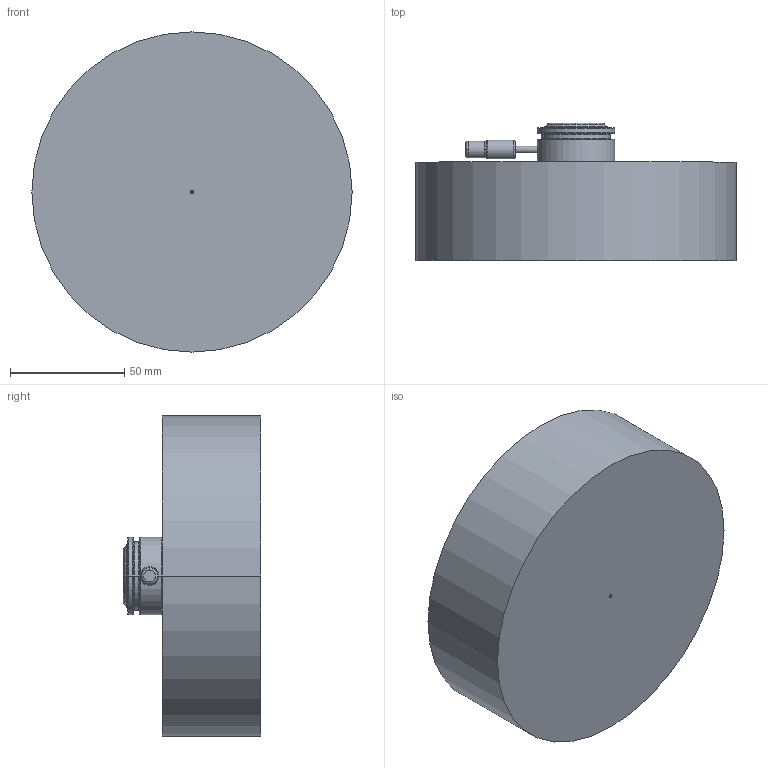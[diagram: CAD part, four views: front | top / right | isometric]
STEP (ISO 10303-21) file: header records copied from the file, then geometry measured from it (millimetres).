
FILE_DESCRIPTION((''),'2;1');
FILE_NAME('M34G101.stp','2020-09-17T12:50:11',(''),(''),'AutoCAD STEP 2000i','AutoCAD 2000i',', , ');
FILE_SCHEMA(('CONFIG_CONTROL_DESIGN'));
Length unit declared in the file: millimetre
Products named in the file (3): DRAWING1; NOZZLE M101G34; MOLD BODY 101 G M 34
Assembly tree (2 placements, depth 2):
  DRAWING1
    NOZZLE M101G34
    MOLD BODY 101 G M 34
Bounding box: 140 x 60 x 140 mm (x, y, z)
Volume: 673206.3 mm3; surface area: 59740.4 mm2
Topology: 2 solids, 2 shells, 116 faces, 277 edges, 174 vertices
Faces by surface type: cone 38, cylinder 34, bspline 17, plane 17, torus 10
Entity records: 4170 total; most frequent: CARTESIAN_POINT 1287, DIRECTION 663, ORIENTED_EDGE 538, AXIS2_PLACEMENT_3D 295, EDGE_CURVE 269, CIRCLE 193, VERTEX_POINT 172, EDGE_LOOP 133
